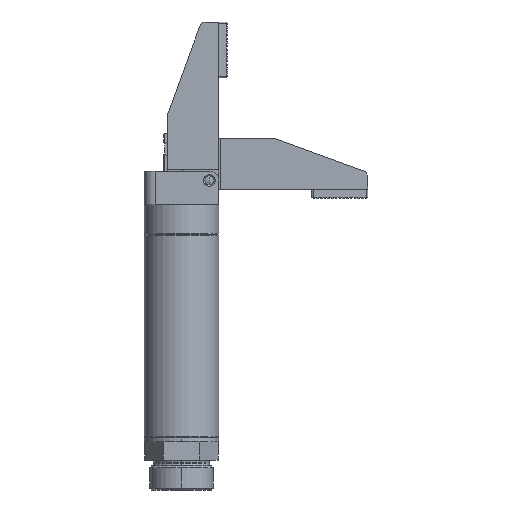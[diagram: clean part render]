
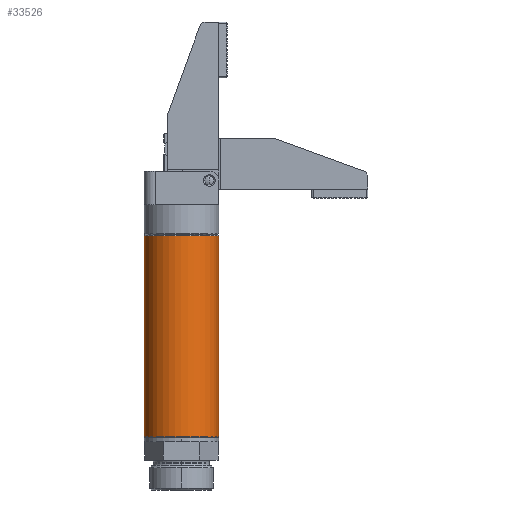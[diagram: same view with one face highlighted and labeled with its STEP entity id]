
A CAD part, front view. The second image highlights one B-rep face of the part: STEP entity #33526.
In plain terms, the highlighted cylindrical face has radius 10 mm (diameter 20 mm), a partial arc.
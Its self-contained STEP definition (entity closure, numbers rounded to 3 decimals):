
#1566 = CARTESIAN_POINT ( 'NONE',  ( -5.573, 69.8, -51.275 ) ) ;
#3560 = DIRECTION ( 'NONE',  ( 1., 0., 0. ) ) ;
#14331 = DIRECTION ( 'NONE',  ( -1., 0., 0. ) ) ;
#16523 = VERTEX_POINT ( 'NONE', #116471 ) ;
#19487 = EDGE_CURVE ( 'NONE', #45481, #96842, #81484, .T. ) ;
#20986 = EDGE_CURVE ( 'NONE', #50161, #16523, #42730, .T. ) ;
#24903 = VECTOR ( 'NONE', #61026, 1000. ) ;
#29015 = CARTESIAN_POINT ( 'NONE',  ( -15.573, 69.8, -51.275 ) ) ;
#33526 = ADVANCED_FACE ( 'NONE', ( #113913 ), #64056, .T. ) ;
#34964 = DIRECTION ( 'NONE',  ( 0., 0., 1. ) ) ;
#39837 = CIRCLE ( 'NONE', #153942, 10. ) ;
#42730 = LINE ( 'NONE', #137369, #24903 ) ;
#43319 = ORIENTED_EDGE ( 'NONE', *, *, #20986, .F. ) ;
#45481 = VERTEX_POINT ( 'NONE', #29015 ) ;
#48931 = EDGE_CURVE ( 'NONE', #96842, #16523, #39837, .T. ) ;
#50161 = VERTEX_POINT ( 'NONE', #156827 ) ;
#50942 = CARTESIAN_POINT ( 'NONE',  ( -5.573, 59.8, -51.275 ) ) ;
#52067 = AXIS2_PLACEMENT_3D ( 'NONE', #92059, #129931, #3560 ) ;
#61026 = DIRECTION ( 'NONE',  ( 0., 0., -1. ) ) ;
#63698 = DIRECTION ( 'NONE',  ( 0., 0., -1. ) ) ;
#64056 = CYLINDRICAL_SURFACE ( 'NONE', #52067, 10. ) ;
#71341 = EDGE_CURVE ( 'NONE', #89404, #45481, #153194, .T. ) ;
#78712 = ORIENTED_EDGE ( 'NONE', *, *, #71341, .T. ) ;
#81484 = CIRCLE ( 'NONE', #152234, 10. ) ;
#89404 = VERTEX_POINT ( 'NONE', #119242 ) ;
#90590 = DIRECTION ( 'NONE',  ( 0., 0., 1. ) ) ;
#92059 = CARTESIAN_POINT ( 'NONE',  ( -5.573, 69.8, 2.925 ) ) ;
#96842 = VERTEX_POINT ( 'NONE', #50942 ) ;
#103331 = VECTOR ( 'NONE', #128212, 1000. ) ;
#107185 = EDGE_CURVE ( 'NONE', #50161, #89404, #154487, .T. ) ;
#111122 = CARTESIAN_POINT ( 'NONE',  ( -5.573, 69.8, -51.275 ) ) ;
#113913 = FACE_OUTER_BOUND ( 'NONE', #159137, .T. ) ;
#116088 = ORIENTED_EDGE ( 'NONE', *, *, #48931, .T. ) ;
#116471 = CARTESIAN_POINT ( 'NONE',  ( 4.427, 69.8, -51.275 ) ) ;
#117136 = ORIENTED_EDGE ( 'NONE', *, *, #19487, .T. ) ;
#119242 = CARTESIAN_POINT ( 'NONE',  ( -15.573, 69.8, 2.625 ) ) ;
#123956 = DIRECTION ( 'NONE',  ( -1., 0., 0. ) ) ;
#128212 = DIRECTION ( 'NONE',  ( 0., 0., -1. ) ) ;
#129931 = DIRECTION ( 'NONE',  ( 0., 0., -1. ) ) ;
#137369 = CARTESIAN_POINT ( 'NONE',  ( 4.427, 69.8, 2.925 ) ) ;
#140031 = CARTESIAN_POINT ( 'NONE',  ( -5.573, 69.8, 2.625 ) ) ;
#141041 = CARTESIAN_POINT ( 'NONE',  ( -15.573, 69.8, 2.925 ) ) ;
#142390 = ORIENTED_EDGE ( 'NONE', *, *, #107185, .T. ) ;
#152234 = AXIS2_PLACEMENT_3D ( 'NONE', #1566, #90590, #14331 ) ;
#152840 = DIRECTION ( 'NONE',  ( 1., 0., 0. ) ) ;
#153194 = LINE ( 'NONE', #141041, #103331 ) ;
#153942 = AXIS2_PLACEMENT_3D ( 'NONE', #111122, #34964, #123956 ) ;
#154487 = CIRCLE ( 'NONE', #157997, 10. ) ;
#156827 = CARTESIAN_POINT ( 'NONE',  ( 4.427, 69.8, 2.625 ) ) ;
#157997 = AXIS2_PLACEMENT_3D ( 'NONE', #140031, #63698, #152840 ) ;
#159137 = EDGE_LOOP ( 'NONE', ( #142390, #78712, #117136, #116088, #43319 ) ) ;
